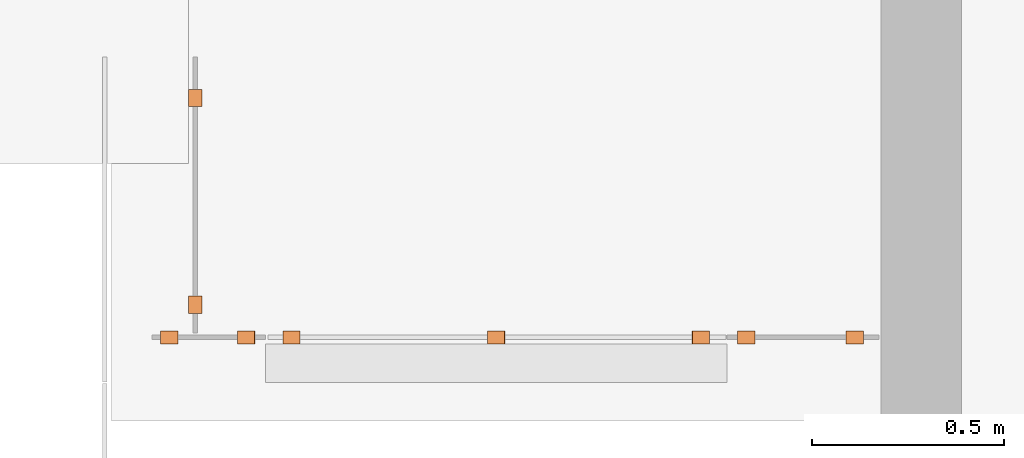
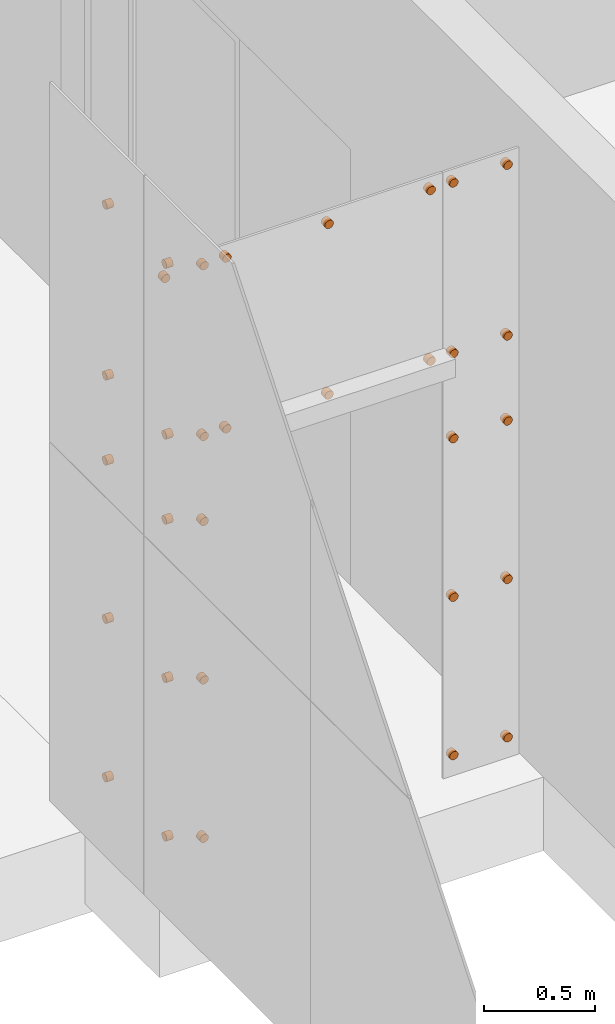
# One storey, part 62 of 62: 32 proxies.
"""IFC2X3 building model written with IfcOpenShell, lengths in millimetres."""

from ifc_helpers import new_model, entity, si_unit, converted_unit, derived_unit, money_unit, direction, frame, origin_with_axes, place, context, subcontext, project, spatial, faceted_brep, source, transform, mapped, type_object, element, save


model = new_model("IFC2X3")

# Units and contexts
model_context = context("Model", 3, precision=0.01, world=origin_with_axes(), true_north=direction((0.0, 1.0)))
body_context = subcontext(model_context, "Body", "Model", "MODEL_VIEW")
ifc_project = project(units=[si_unit("LENGTHUNIT", "METRE", prefix="MILLI"), si_unit("AREAUNIT", "SQUARE_METRE"), si_unit("VOLUMEUNIT", "CUBIC_METRE"), converted_unit("PLANEANGLEUNIT", "DEGREE", entity("IfcPlaneAngleMeasure", 0.0174532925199), si_unit("PLANEANGLEUNIT", "RADIAN"), dimensions=[0, 0, 0, 0, 0, 0, 0]), si_unit("SOLIDANGLEUNIT", "STERADIAN"), money_unit("EUR"), converted_unit("TIMEUNIT", "Year", entity("IfcTimeMeasure", 31556926.0), si_unit("TIMEUNIT", "SECOND"), dimensions=[0, 0, 1, 0, 0, 0, 0]), si_unit("MASSUNIT", "GRAM", prefix="KILO"), si_unit("THERMODYNAMICTEMPERATUREUNIT", "DEGREE_CELSIUS"), si_unit("LUMINOUSINTENSITYUNIT", "LUMEN"), si_unit("ENERGYUNIT", "JOULE", prefix="MEGA"), derived_unit("THERMALCONDUCTANCEUNIT", [(si_unit("POWERUNIT", "WATT"), 1), (si_unit("LENGTHUNIT", "METRE"), -1), (si_unit("THERMODYNAMICTEMPERATUREUNIT", "KELVIN"), -1)]), derived_unit("SPECIFICHEATCAPACITYUNIT", [(si_unit("ENERGYUNIT", "JOULE"), 1), (si_unit("MASSUNIT", "GRAM", prefix="KILO"), -1), (si_unit("THERMODYNAMICTEMPERATUREUNIT", "KELVIN"), -1)]), derived_unit("MASSDENSITYUNIT", [(si_unit("MASSUNIT", "GRAM", prefix="KILO"), 1), (si_unit("VOLUMEUNIT", "CUBIC_METRE"), -1)])], contexts=[model_context])

# Site, building, storey
site_placement = place(None, origin_with_axes())
site = spatial("IfcSite", under=ifc_project, at=site_placement, Name="Puškini 31, Narva", CompositionType="ELEMENT")
building_placement = place(site_placement, origin_with_axes())
building = spatial("IfcBuilding", under=site, at=building_placement, Name="Narva Riigigümnaasium", CompositionType="ELEMENT")
storey_placement = place(building_placement, frame((0.0, 0.0, 660.0), z_axis=(0.0, 0.0, 1.0), x_axis=(1.0, 0.0, 0.0)))
storey = spatial("IfcBuildingStorey", under=building, at=storey_placement, Name="2.korrus +0.66", CompositionType="ELEMENT", Elevation=660.0)

# Proxies
building_element_proxy_type = type_object("IfcBuildingElementProxyType", Name="Cylinder 23", PredefinedType="NOTDEFINED")
shared_shape = source(origin_with_axes(), body_context, "Body", "Brep", [
    faceted_brep([(0.0, -3.90708399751, -22.1581744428), (0.0, 0.0, -22.5), (35.0, 0.0, -22.5), (35.0, -3.90708399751, -22.1581744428), (0.0, -7.69545322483, -21.1430839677), (0.0, -11.25, -19.4855715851), (0.0, -14.4627212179, -17.2359999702), (0.0, -17.2359999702, -14.4627212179), (0.0, -19.4855715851, -11.25), (0.0, -21.1430839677, -7.69545322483), (0.0, -22.1581744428, -3.90708399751), (0.0, -22.5, 0.0), (0.0, -22.1581744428, 3.90708399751), (0.0, -21.1430839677, 7.69545322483), (0.0, -19.4855715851, 11.25), (0.0, -17.2359999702, 14.4627212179), (0.0, -14.4627212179, 17.2359999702), (0.0, -11.25, 19.4855715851), (0.0, -7.69545322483, 21.1430839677), (0.0, -3.90708399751, 22.1581744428), (0.0, 0.0, 22.5), (0.0, 3.90708399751, 22.1581744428), (0.0, 7.69545322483, 21.1430839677), (0.0, 11.25, 19.4855715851), (0.0, 14.4627212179, 17.2359999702), (0.0, 17.2359999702, 14.4627212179), (0.0, 19.4855715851, 11.25), (0.0, 21.1430839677, 7.69545322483), (0.0, 22.1581744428, 3.90708399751), (0.0, 22.5, 0.0), (0.0, 22.1581744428, -3.90708399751), (0.0, 21.1430839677, -7.69545322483), (0.0, 19.4855715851, -11.25), (0.0, 17.2359999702, -14.4627212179), (0.0, 14.4627212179, -17.2359999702), (0.0, 11.25, -19.4855715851), (0.0, 7.69545322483, -21.1430839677), (0.0, 3.90708399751, -22.1581744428), (35.0, 3.90708399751, -22.1581744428), (35.0, 7.69545322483, -21.1430839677), (35.0, 11.25, -19.4855715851), (35.0, 14.4627212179, -17.2359999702), (35.0, 17.2359999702, -14.4627212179), (35.0, 19.4855715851, -11.25), (35.0, 21.1430839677, -7.69545322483), (35.0, 22.1581744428, -3.90708399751), (35.0, 22.5, 0.0), (35.0, 22.1581744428, 3.90708399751), (35.0, 21.1430839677, 7.69545322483), (35.0, 19.4855715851, 11.25), (35.0, 17.2359999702, 14.4627212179), (35.0, 14.4627212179, 17.2359999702), (35.0, 11.25, 19.4855715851), (35.0, 7.69545322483, 21.1430839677), (35.0, 3.90708399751, 22.1581744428), (35.0, 0.0, 22.5), (35.0, -3.90708399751, 22.1581744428), (35.0, -7.69545322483, 21.1430839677), (35.0, -11.25, 19.4855715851), (35.0, -14.4627212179, 17.2359999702), (35.0, -17.2359999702, 14.4627212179), (35.0, -19.4855715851, 11.25), (35.0, -21.1430839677, 7.69545322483), (35.0, -22.1581744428, 3.90708399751), (35.0, -22.5, 0.0), (35.0, -22.1581744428, -3.90708399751), (35.0, -21.1430839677, -7.69545322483), (35.0, -19.4855715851, -11.25), (35.0, -17.2359999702, -14.4627212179), (35.0, -14.4627212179, -17.2359999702), (35.0, -11.25, -19.4855715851), (35.0, -7.69545322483, -21.1430839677)], [[[0, 1, 2, 3]], [[0, 4, 5, 6, 7, 8, 9, 10, 11, 12, 13, 14, 15, 16, 17, 18, 19, 20, 21, 22, 23, 24, 25, 26, 27, 28, 29, 30, 31, 32, 33, 34, 35, 36, 37, 1]], [[1, 37, 38, 2]], [[3, 2, 38, 39, 40, 41, 42, 43, 44, 45, 46, 47, 48, 49, 50, 51, 52, 53, 54, 55, 56, 57, 58, 59, 60, 61, 62, 63, 64, 65, 66, 67, 68, 69, 70, 71]], [[4, 0, 3, 71]], [[5, 4, 71, 70]], [[6, 5, 70, 69]], [[7, 6, 69, 68]], [[8, 7, 68, 67]], [[9, 8, 67, 66]], [[10, 9, 66, 65]], [[11, 10, 65, 64]], [[12, 11, 64, 63]], [[13, 12, 63, 62]], [[14, 13, 62, 61]], [[15, 14, 61, 60]], [[16, 15, 60, 59]], [[17, 16, 59, 58]], [[18, 17, 58, 57]], [[19, 18, 57, 56]], [[20, 19, 56, 55]], [[21, 20, 55, 54]], [[22, 21, 54, 53]], [[23, 22, 53, 52]], [[24, 23, 52, 51]], [[25, 24, 51, 50]], [[26, 25, 50, 49]], [[27, 26, 49, 48]], [[28, 27, 48, 47]], [[29, 28, 47, 46]], [[30, 29, 46, 45]], [[31, 30, 45, 44]], [[32, 31, 44, 43]], [[33, 32, 43, 42]], [[34, 33, 42, 41]], [[35, 34, 41, 40]], [[36, 35, 40, 39]], [[37, 36, 39, 38]]]),
])
for number, where, z_axis, x_axis in (
    (1, (45850.0, 198395.0, 2329.53250462), (0.0, 0.0, 1.0), (0.0, -1.0, 0.0)),
    (2, (45968.0, 198395.0, 2330.53250462), (0.0, 0.0, 1.0), (0.0, -1.0, 0.0)),
    (3, (46500.0, 198395.0, 2330.53250462), (0.0, 0.0, 1.0), (0.0, -1.0, 0.0)),
    (4, (47032.0, 198395.0, 2330.53250462), (0.0, 0.0, 1.0), (0.0, -1.0, 0.0)),
    (5, (47150.0, 198395.0, 2330.53250462), (0.0, 0.0, 1.0), (0.0, -1.0, 0.0)),
    (6, (47432.0594655, 198395.0, 2329.53250462), (0.0, 0.0, 1.0), (0.0, -1.0, 0.0)),
    (7, (45850.0, 198395.0, 3269.53250462), (0.0, 0.0, 1.0), (0.0, -1.0, 0.0)),
    (8, (45968.0, 198395.0, 3270.53250462), (0.0, 0.0, 1.0), (0.0, -1.0, 0.0)),
    (9, (46500.0, 198395.0, 3270.53250462), (0.0, 0.0, 1.0), (0.0, -1.0, 0.0)),
    (10, (47032.0, 198395.0, 3270.53250462), (0.0, 0.0, 1.0), (0.0, -1.0, 0.0)),
    (11, (47150.0, 198395.0, 3270.53250462), (0.0, 0.0, 1.0), (0.0, -1.0, 0.0)),
    (12, (47432.0594655, 198395.0, 3269.53250462), (0.0, 0.0, 1.0), (0.0, -1.0, 0.0)),
    (13, (45850.0, 198395.0, 1861.53250462), (0.0, 0.0, 1.0), (0.0, -1.0, 0.0)),
    (14, (47150.0, 198395.0, 1862.53250462), (0.0, 0.0, 1.0), (0.0, -1.0, 0.0)),
    (15, (47432.0594655, 198395.0, 1861.53250462), (0.0, 0.0, 1.0), (0.0, -1.0, 0.0)),
    (16, (45850.0, 198395.0, 989.532504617), (0.0, 0.0, 1.0), (0.0, -1.0, 0.0)),
    (17, (47150.0, 198395.0, 990.532504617), (0.0, 0.0, 1.0), (0.0, -1.0, 0.0)),
    (18, (47432.0594655, 198395.0, 989.532504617), (0.0, 0.0, 1.0), (0.0, -1.0, 0.0)),
    (19, (45850.0, 198395.0, 117.532504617), (0.0, 0.0, 1.0), (0.0, -1.0, 0.0)),
    (20, (47150.0, 198395.0, 118.532504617), (0.0, 0.0, 1.0), (0.0, -1.0, 0.0)),
    (21, (47432.0594655, 198395.0, 117.532504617), (0.0, 0.0, 1.0), (0.0, -1.0, 0.0)),
    (22, (45650.0, 198395.0, 3269.53250462), (0.0, 0.0, 1.0), (0.0, -1.0, 0.0)),
    (23, (45734.9999993, 198463.0, 2329.53250462), (0.0, 0.0, 1.0), (-1.0, 0.0, 0.0)),
    (24, (45734.9999993, 198463.0, 3269.53250462), (0.0, 0.0, 1.0), (-1.0, 0.0, 0.0)),
    (25, (45734.9999993, 198463.0, 1861.53250462), (0.0, 0.0, 1.0), (-1.0, 0.0, 0.0)),
    (26, (45734.9999993, 198463.0, 989.532504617), (0.0, 0.0, 1.0), (-1.0, 0.0, 0.0)),
    (27, (45734.9999993, 198463.0, 117.532504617), (0.0, 0.0, 1.0), (-1.0, 0.0, 0.0)),
    (28, (45734.9999993, 199000.0, 2329.53250462), (0.0, 0.0, 1.0), (-1.0, 0.0, 0.0)),
    (29, (45734.9999993, 199000.0, 3269.53250462), (0.0, 0.0, 1.0), (-1.0, 0.0, 0.0)),
    (30, (45734.9999993, 199000.0, 1861.53250462), (0.0, 0.0, 1.0), (-1.0, 0.0, 0.0)),
    (31, (45734.9999993, 199000.0, 989.532504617), (0.0, 0.0, 1.0), (-1.0, 0.0, 0.0)),
    (32, (45734.9999993, 199000.0, 117.532504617), (0.0, 0.0, 1.0), (-1.0, 0.0, 0.0)),
):
    element("IfcBuildingElementProxy", number, at=place(storey_placement, frame(where, z_axis=z_axis, x_axis=x_axis)), inside=storey, type_object=building_element_proxy_type, Name="MÖÖBEL", context=body_context, shape_type="MappedRepresentation", body=[
        mapped(shared_shape, transform((0.0, 0.0, 0.0))),
    ])

save(model, "model.ifc")
